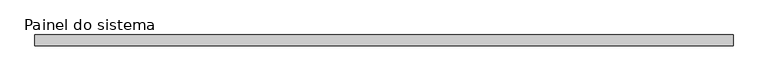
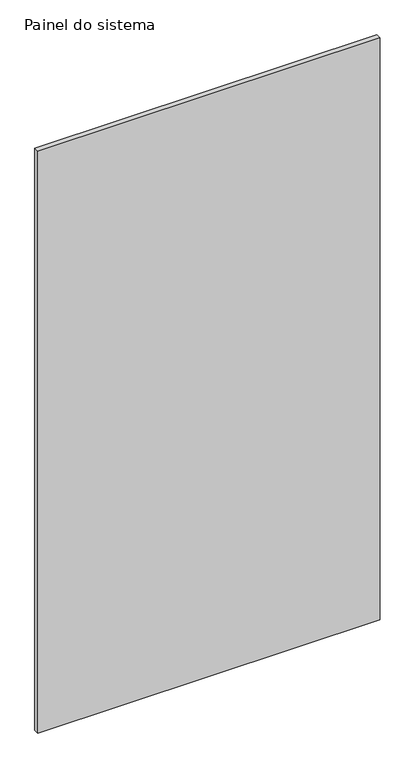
"""IFC4 building model written with IfcOpenShell, lengths in millimetres: plate geometry, Painel do sistema : Envidraçado."""

from ifc_helpers import new_model, si_unit, origin, origin_with_axes, place, context, project, spatial, polyline, outline, extrude, source, transform, mapped, element, save


def painel_do_sistema_49db1829(model_context):
    return source(origin(), model_context, "Body", "SweptSolid", [
        extrude(outline(polyline([(647.0833333, -10.0), (-647.0833333, -10.0), (-647.0833333, 10.0), (647.0833333, 10.0), (647.0833333, -10.0)])), origin_with_axes(), (0.0, 0.0, 1.0), 2325.0),
    ])


if __name__ == "__main__":
    model = new_model("IFC4")
    model_context = context("Model", 3, world=origin())
    ifc_project = project(units=[si_unit("LENGTHUNIT", "METRE", prefix="MILLI")], contexts=[model_context])
    site = spatial("IfcSite", under=ifc_project)
    building = spatial("IfcBuilding", under=site)
    placement = place(None, origin())
    painel_do_sistema_shape = painel_do_sistema_49db1829(model_context)
    element("IfcPlate", 1, ObjectType="Painel do sistema : Envidraçado", at=placement, inside=building, context=model_context, shape_type="MappedRepresentation", body=[
        mapped(painel_do_sistema_shape, transform((0.0, 0.0, 0.0), x_axis=(1.0, 0.0, 0.0), y_axis=(0.0, 1.0, 0.0), z_axis=(0.0, 0.0, 1.0))),
    ])
    save(model, "model.ifc")
